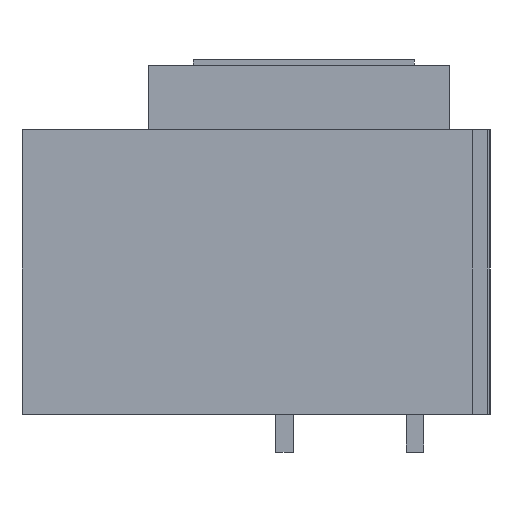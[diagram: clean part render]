
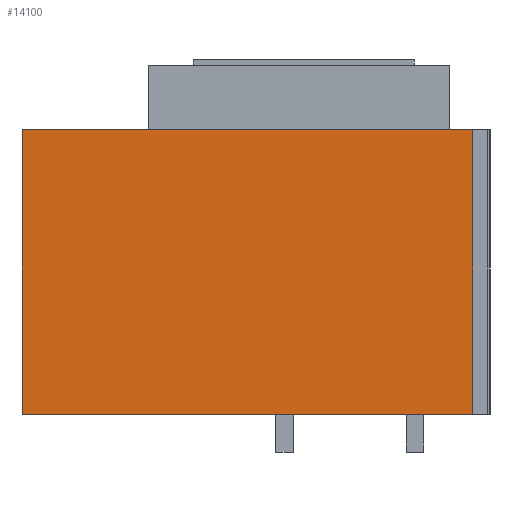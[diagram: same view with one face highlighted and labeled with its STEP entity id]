
A CAD part, left-side view. The second image highlights one B-rep face of the part: STEP entity #14100.
In plain terms, the highlighted planar face has unit normal (-1, 0, 0).
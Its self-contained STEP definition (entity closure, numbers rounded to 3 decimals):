
#1074 = DIRECTION ( 'NONE',  ( 0., 0., 1. ) ) ;
#3504 = CARTESIAN_POINT ( 'NONE',  ( -254., 402., -244.5 ) ) ;
#3510 = VECTOR ( 'NONE', #1074, 1000. ) ;
#3802 = ORIENTED_EDGE ( 'NONE', *, *, #31210, .T. ) ;
#4141 = VECTOR ( 'NONE', #4767, 1000. ) ;
#4767 = DIRECTION ( 'NONE',  ( 0., -1., 0. ) ) ;
#9766 = CARTESIAN_POINT ( 'NONE',  ( -254., 402., -244.5 ) ) ;
#10388 = VECTOR ( 'NONE', #18329, 1000. ) ;
#14100 = ADVANCED_FACE ( 'NONE', ( #31355 ), #29901, .T. ) ;
#15932 = CARTESIAN_POINT ( 'NONE',  ( -254., 15., -244.5 ) ) ;
#16595 = CARTESIAN_POINT ( 'NONE',  ( -254., 0., 0. ) ) ;
#18329 = DIRECTION ( 'NONE',  ( 0., 0., 1. ) ) ;
#18713 = CARTESIAN_POINT ( 'NONE',  ( -254., 15., 0. ) ) ;
#18788 = LINE ( 'NONE', #23909, #4141 ) ;
#18820 = DIRECTION ( 'NONE',  ( -1., 0., 0. ) ) ;
#19481 = EDGE_LOOP ( 'NONE', ( #27336, #25786, #3802, #31230 ) ) ;
#20353 = EDGE_CURVE ( 'NONE', #29114, #30378, #21189, .T. ) ;
#21189 = LINE ( 'NONE', #15932, #10388 ) ;
#22141 = DIRECTION ( 'NONE',  ( 0., -1., 0. ) ) ;
#23909 = CARTESIAN_POINT ( 'NONE',  ( -254., 0., -244.5 ) ) ;
#24162 = VERTEX_POINT ( 'NONE', #9766 ) ;
#25786 = ORIENTED_EDGE ( 'NONE', *, *, #27786, .F. ) ;
#27336 = ORIENTED_EDGE ( 'NONE', *, *, #30063, .F. ) ;
#27427 = VECTOR ( 'NONE', #22141, 1000. ) ;
#27786 = EDGE_CURVE ( 'NONE', #24162, #32892, #29790, .T. ) ;
#28306 = LINE ( 'NONE', #16595, #27427 ) ;
#28915 = AXIS2_PLACEMENT_3D ( 'NONE', #35666, #18820, #30253 ) ;
#29114 = VERTEX_POINT ( 'NONE', #34885 ) ;
#29790 = LINE ( 'NONE', #3504, #3510 ) ;
#29901 = PLANE ( 'NONE',  #28915 ) ;
#30063 = EDGE_CURVE ( 'NONE', #32892, #30378, #28306, .T. ) ;
#30253 = DIRECTION ( 'NONE',  ( 0., -1., 0. ) ) ;
#30378 = VERTEX_POINT ( 'NONE', #18713 ) ;
#31210 = EDGE_CURVE ( 'NONE', #24162, #29114, #18788, .T. ) ;
#31230 = ORIENTED_EDGE ( 'NONE', *, *, #20353, .T. ) ;
#31355 = FACE_OUTER_BOUND ( 'NONE', #19481, .T. ) ;
#32892 = VERTEX_POINT ( 'NONE', #34905 ) ;
#34885 = CARTESIAN_POINT ( 'NONE',  ( -254., 15., -244.5 ) ) ;
#34905 = CARTESIAN_POINT ( 'NONE',  ( -254., 402., 0. ) ) ;
#35666 = CARTESIAN_POINT ( 'NONE',  ( -254., 0., -244.5 ) ) ;
